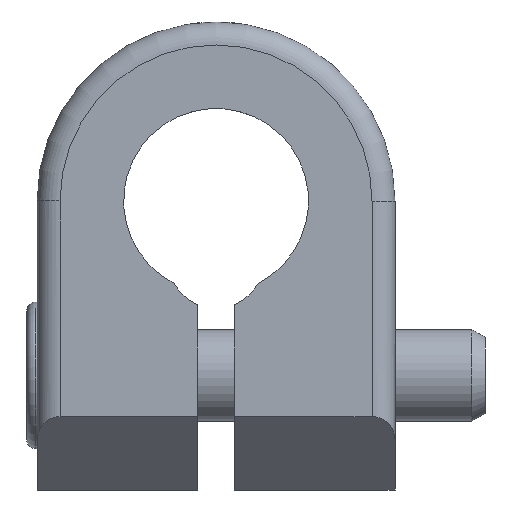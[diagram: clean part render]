
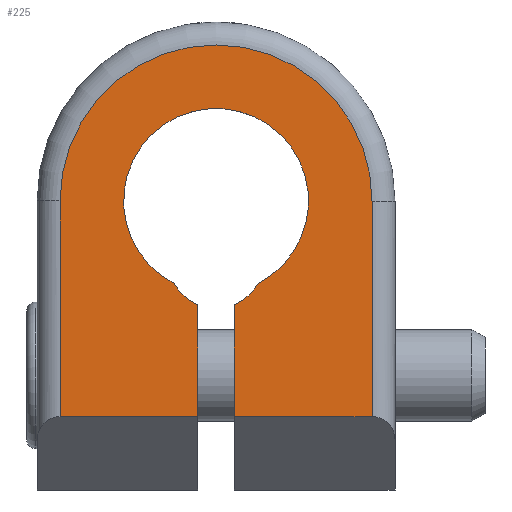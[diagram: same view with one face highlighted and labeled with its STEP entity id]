
A CAD part, front view. The second image highlights one B-rep face of the part: STEP entity #225.
In plain terms, the highlighted planar face has unit normal (0, -1, 0).
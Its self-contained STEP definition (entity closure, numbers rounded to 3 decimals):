
#225=ADVANCED_FACE('',(#425),#426,.F.);
#425=FACE_OUTER_BOUND('',#607,.T.);
#426=PLANE('',#608);
#607=EDGE_LOOP('',(#943,#944,#945,#946,#947,#948,#949,#950,#951,#952));
#608=AXIS2_PLACEMENT_3D('',#953,#954,#955);
#943=ORIENTED_EDGE('',*,*,#1075,.F.);
#944=ORIENTED_EDGE('',*,*,#1151,.T.);
#945=ORIENTED_EDGE('',*,*,#1068,.F.);
#946=ORIENTED_EDGE('',*,*,#1143,.F.);
#947=ORIENTED_EDGE('',*,*,#1118,.T.);
#948=ORIENTED_EDGE('',*,*,#1132,.T.);
#949=ORIENTED_EDGE('',*,*,#1079,.T.);
#950=ORIENTED_EDGE('',*,*,#1134,.T.);
#951=ORIENTED_EDGE('',*,*,#1112,.T.);
#952=ORIENTED_EDGE('',*,*,#1090,.F.);
#953=CARTESIAN_POINT('',(0.0,-12.5,0.0));
#954=DIRECTION('',(0.0,1.0,0.0));
#955=DIRECTION('',(0.0,0.0,1.0));
#1068=EDGE_CURVE('',#1234,#1235,#1236,.F.);
#1075=EDGE_CURVE('',#1246,#1248,#1249,.F.);
#1079=EDGE_CURVE('',#1255,#1253,#1256,.F.);
#1090=EDGE_CURVE('',#1248,#1273,#1274,.T.);
#1112=EDGE_CURVE('',#1309,#1273,#1310,.T.);
#1118=EDGE_CURVE('',#1319,#1317,#1320,.T.);
#1132=EDGE_CURVE('',#1317,#1255,#1337,.F.);
#1134=EDGE_CURVE('',#1253,#1309,#1339,.F.);
#1143=EDGE_CURVE('',#1319,#1234,#1352,.T.);
#1151=EDGE_CURVE('',#1246,#1235,#1362,.T.);
#1234=VERTEX_POINT('',#1464);
#1235=VERTEX_POINT('',#1465);
#1236=CIRCLE('',#1466,5.2);
#1246=VERTEX_POINT('',#1478);
#1248=VERTEX_POINT('',#1481);
#1249=CIRCLE('',#1482,5.2);
#1253=VERTEX_POINT('',#1487);
#1255=VERTEX_POINT('',#1489);
#1256=CIRCLE('',#1490,17.0);
#1273=VERTEX_POINT('',#1563);
#1274=LINE('',#1564,#1565);
#1309=VERTEX_POINT('',#1614);
#1310=LINE('',#1615,#1616);
#1317=VERTEX_POINT('',#1625);
#1319=VERTEX_POINT('',#1627);
#1320=LINE('',#1628,#1629);
#1337=LINE('',#1652,#1653);
#1339=LINE('',#1655,#1656);
#1352=LINE('',#1669,#1670);
#1362=CIRCLE('',#1682,10.075);
#1464=CARTESIAN_POINT('',(2.0,-12.5,-11.3));
#1465=CARTESIAN_POINT('',(4.572,-12.5,-8.978));
#1466=AXIS2_PLACEMENT_3D('',#1801,#1802,#1803);
#1478=CARTESIAN_POINT('',(-4.572,-12.5,-8.978));
#1481=CARTESIAN_POINT('',(-2.0,-12.5,-11.3));
#1482=AXIS2_PLACEMENT_3D('',#1813,#1814,#1815);
#1487=CARTESIAN_POINT('',(-17.0,-12.5,0.0));
#1489=CARTESIAN_POINT('',(17.,-12.5,-0.021));
#1490=AXIS2_PLACEMENT_3D('',#1820,#1821,#1822);
#1563=CARTESIAN_POINT('',(-2.0,-12.5,-23.5));
#1564=CARTESIAN_POINT('',(-2.0,-12.5,0.0));
#1565=VECTOR('',#1838,1.0);
#1614=CARTESIAN_POINT('',(-17.0,-12.5,-23.5));
#1615=CARTESIAN_POINT('',(-2.0,-12.5,-23.5));
#1616=VECTOR('',#1862,1.0);
#1625=CARTESIAN_POINT('',(17.,-12.5,-23.5));
#1627=CARTESIAN_POINT('',(2.0,-12.5,-23.5));
#1628=CARTESIAN_POINT('',(19.5,-12.5,-23.5));
#1629=VECTOR('',#1871,1.0);
#1652=CARTESIAN_POINT('',(17.,-12.5,-0.024));
#1653=VECTOR('',#1887,1.0);
#1655=CARTESIAN_POINT('',(-17.0,-12.5,-23.5));
#1656=VECTOR('',#1888,1.0);
#1669=CARTESIAN_POINT('',(2.0,-12.5,0.0));
#1670=VECTOR('',#1901,1.0);
#1682=AXIS2_PLACEMENT_3D('',#1910,#1911,#1912);
#1801=CARTESIAN_POINT('',(0.0,-12.5,-6.5));
#1802=DIRECTION('',(0.0,1.0,0.0));
#1803=DIRECTION('',(0.0,0.0,1.0));
#1813=CARTESIAN_POINT('',(0.0,-12.5,-6.5));
#1814=DIRECTION('',(0.0,1.0,0.0));
#1815=DIRECTION('',(0.0,0.0,1.0));
#1820=CARTESIAN_POINT('',(0.0,-12.5,0.0));
#1821=DIRECTION('',(0.0,1.0,0.0));
#1822=DIRECTION('',(0.0,0.0,1.0));
#1838=DIRECTION('',(0.0,0.0,-1.0));
#1862=DIRECTION('',(1.0,0.0,0.0));
#1871=DIRECTION('',(1.0,0.0,0.0));
#1887=DIRECTION('',(0.,0.0,-1.));
#1888=DIRECTION('',(0.0,0.0,1.0));
#1901=DIRECTION('',(0.0,0.0,1.0));
#1910=CARTESIAN_POINT('',(0.0,-12.5,0.0));
#1911=DIRECTION('',(0.0,1.0,0.0));
#1912=DIRECTION('',(0.0,0.0,1.0));
